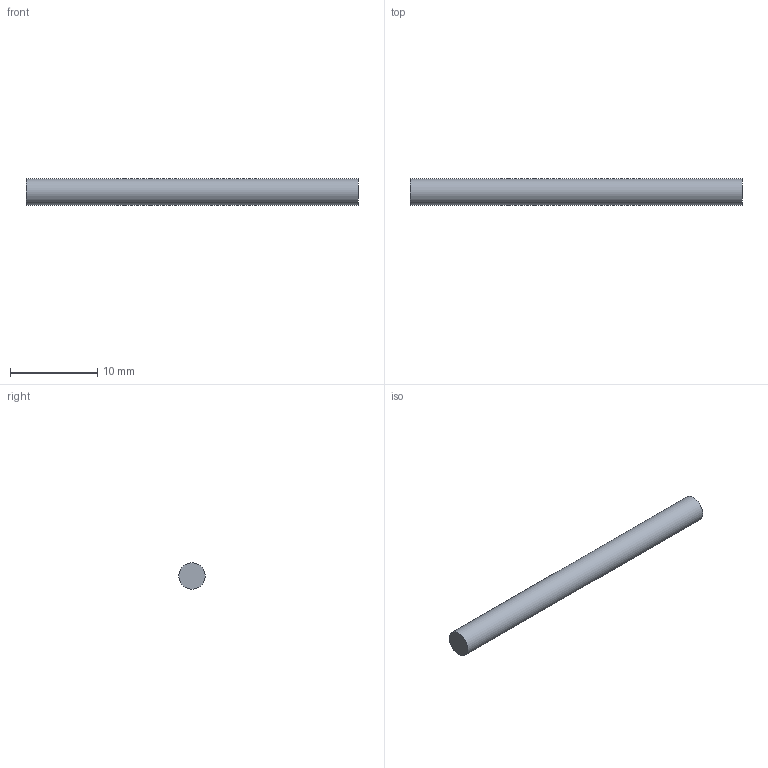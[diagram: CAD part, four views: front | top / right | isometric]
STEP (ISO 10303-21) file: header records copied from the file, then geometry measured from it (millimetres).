
FILE_DESCRIPTION(/* description */ ('STEP AP242 Edition 2','CAx-IF Rec.Pracs.---Representation and Presentation of Product Manufacturing Information (PMI)---4.0---2014-10-13','CAx-IF Rec.Pracs.---3D Tessellated Geometry---0.4---2014-09-14','2;1','CAx-IF Rec.Pracs.---User Defined Attributes---1.5---2016-08-15'),/* implementation_level */ '2;1');
FILE_NAME(/* name */ 'Controller - right trigger 1 rod',/* time_stamp */ '2026-11-08T20:41:02Z',/* author */ (''),/* organization */ (''),/* preprocessor_version */ 'ST-DEVELOPER v20',/* originating_system */ 'ONSHAPE BY PTC INC, 1.223',/* authorisation */ ' ');
FILE_SCHEMA (('AP242_MANAGED_MODEL_BASED_3D_ENGINEERING_MIM_LF { 1 0 10303 442 3 1 4 }'));
Length unit declared in the file: metre
Products named in the file (1): right trigger 1 rod
Bounding box: 38 x 3 x 3 mm (x, y, z)
Volume: 268.6 mm3; surface area: 372.3 mm2
Topology: 1 solids, 1 shells, 3 faces, 3 edges, 2 vertices
Faces by surface type: plane 2, cylinder 1
Full cylindrical faces by diameter (mm): 3 x1
Entity records: 76 total; most frequent: DIRECTION 12, CARTESIAN_POINT 8, AXIS2_PLACEMENT_3D 6, ORIENTED_EDGE 4, EDGE_LOOP 4, FACE_BOUND 4, ADVANCED_FACE 3, PLANE 2
